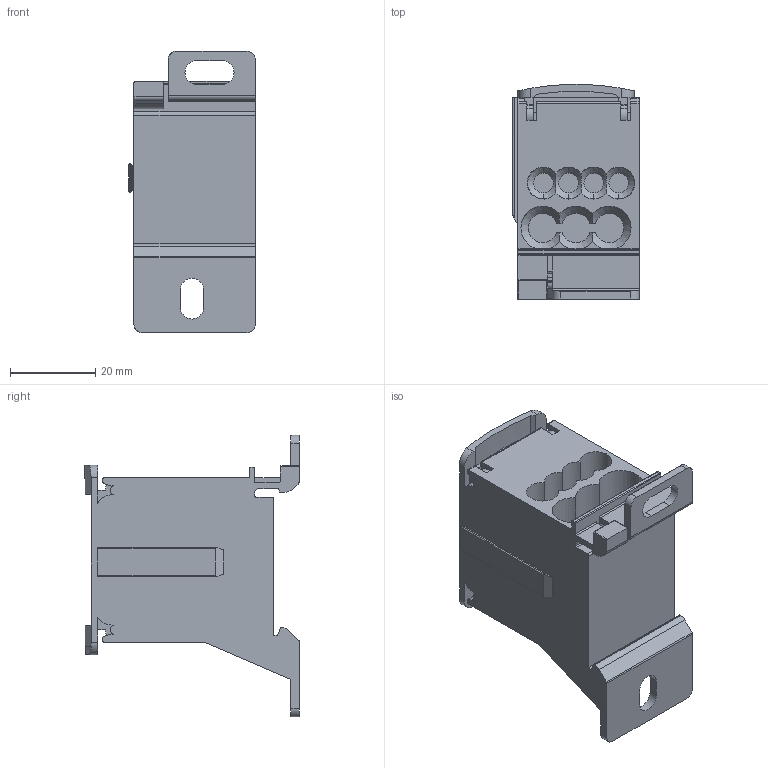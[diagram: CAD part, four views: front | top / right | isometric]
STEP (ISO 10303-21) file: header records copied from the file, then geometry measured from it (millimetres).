
FILE_DESCRIPTION(/* description */ ('Unknown'),/* implementation_level */ '2;1');
FILE_NAME(/* name */ '9D01_5_080_0304',/* time_stamp */ '2023-07-03T16:32:23+02:00',/* author */ ('Unknown'),/* organization */ ('Unknown'),/* preprocessor_version */ 'ST-DEVELOPER v18.102',/* originating_system */ 'Solid Edge',/* authorisation */ 'Unknown');
FILE_SCHEMA (('AUTOMOTIVE_DESIGN {1 0 10303 214 3 1 1}'));
Length unit declared in the file: millimetre
Products named in the file (1): 9D01_5_080_0304
Bounding box: 29.6 x 50.3 x 66 mm (x, y, z)
Volume: 40056.7 mm3; surface area: 15056.8 mm2
Topology: 1 solids, 2 shells, 350 faces, 1031 edges, 686 vertices
Faces by surface type: plane 189, cylinder 139, cone 16, torus 6
Entity records: 12126 total; most frequent: CARTESIAN_POINT 2507, ORIENTED_EDGE 2062, DIRECTION 2028, EDGE_CURVE 1031, AXIS2_PLACEMENT_3D 701, VERTEX_POINT 686, LINE 626, VECTOR 626
